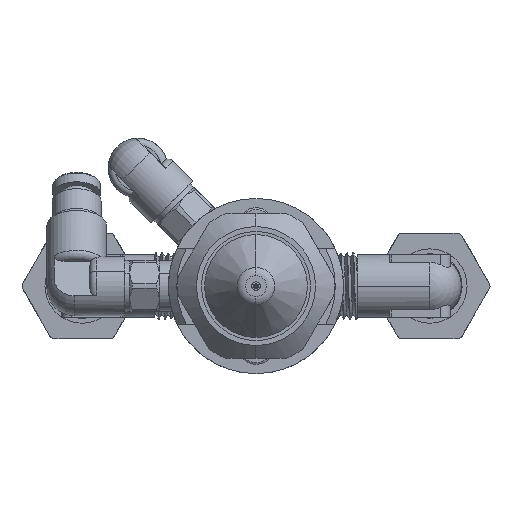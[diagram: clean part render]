
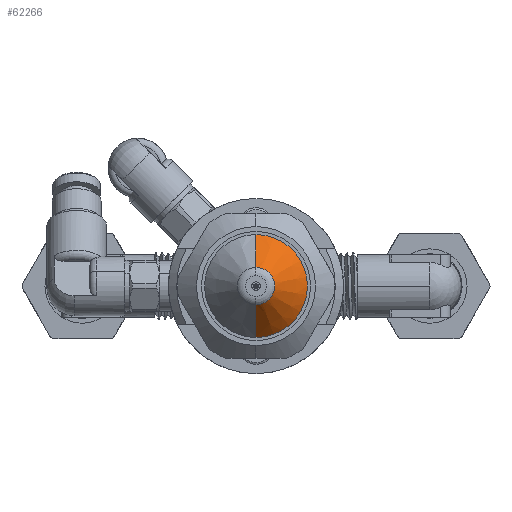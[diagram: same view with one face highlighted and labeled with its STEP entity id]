
A CAD part, front view. The second image highlights one B-rep face of the part: STEP entity #62266.
In plain terms, the highlighted conical face has half-angle 38 degrees and reference radius 7.912 mm.
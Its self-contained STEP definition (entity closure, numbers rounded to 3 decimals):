
#62178 = CYLINDRICAL_SURFACE('',#62179,7.912);
#62179 = AXIS2_PLACEMENT_3D('',#62180,#62181,#62182);
#62180 = CARTESIAN_POINT('',(0.,-51.919,
    0.));
#62181 = DIRECTION('',(0.,1.,0.));
#62182 = DIRECTION('',(0.,-0.,1.));
#62193 = EDGE_CURVE('',#62194,#62196,#62198,.T.);
#62194 = VERTEX_POINT('',#62195);
#62195 = CARTESIAN_POINT('',(0.,-10.421,7.912)
  );
#62196 = VERTEX_POINT('',#62197);
#62197 = CARTESIAN_POINT('',(0.,-10.421,-7.912)
  );
#62198 = SURFACE_CURVE('',#62199,(#62204,#62211),.PCURVE_S1.);
#62199 = CIRCLE('',#62200,7.912);
#62200 = AXIS2_PLACEMENT_3D('',#62201,#62202,#62203);
#62201 = CARTESIAN_POINT('',(0.,-10.421,
    0.));
#62202 = DIRECTION('',(0.,1.,0.));
#62203 = DIRECTION('',(0.,-0.,1.));
#62204 = PCURVE('',#62178,#62205);
#62205 = DEFINITIONAL_REPRESENTATION('',(#62206),#62210);
#62206 = LINE('',#62207,#62208);
#62207 = CARTESIAN_POINT('',(0.,41.498));
#62208 = VECTOR('',#62209,1.);
#62209 = DIRECTION('',(1.,0.));
#62210 = ( GEOMETRIC_REPRESENTATION_CONTEXT(2) 
PARAMETRIC_REPRESENTATION_CONTEXT() REPRESENTATION_CONTEXT('2D SPACE',''
  ) );
#62211 = PCURVE('',#62212,#62217);
#62212 = CONICAL_SURFACE('',#62213,7.912,0.663);
#62213 = AXIS2_PLACEMENT_3D('',#62214,#62215,#62216);
#62214 = CARTESIAN_POINT('',(0.,-10.421,
    0.));
#62215 = DIRECTION('',(0.,1.,0.));
#62216 = DIRECTION('',(0.,-0.,1.));
#62217 = DEFINITIONAL_REPRESENTATION('',(#62218),#62222);
#62218 = LINE('',#62219,#62220);
#62219 = CARTESIAN_POINT('',(0.,0.));
#62220 = VECTOR('',#62221,1.);
#62221 = DIRECTION('',(1.,0.));
#62222 = ( GEOMETRIC_REPRESENTATION_CONTEXT(2) 
PARAMETRIC_REPRESENTATION_CONTEXT() REPRESENTATION_CONTEXT('2D SPACE',''
  ) );
#62266 = ADVANCED_FACE('',(#62267),#62212,.T.);
#62267 = FACE_BOUND('',#62268,.T.);
#62268 = EDGE_LOOP('',(#62269,#62300,#62326,#62327));
#62269 = ORIENTED_EDGE('',*,*,#62270,.T.);
#62270 = EDGE_CURVE('',#62271,#62273,#62275,.T.);
#62271 = VERTEX_POINT('',#62272);
#62272 = CARTESIAN_POINT('',(0.,-16.89,
    2.858));
#62273 = VERTEX_POINT('',#62274);
#62274 = CARTESIAN_POINT('',(0.,-16.89,
    -2.858));
#62275 = SURFACE_CURVE('',#62276,(#62281,#62288),.PCURVE_S1.);
#62276 = CIRCLE('',#62277,2.858);
#62277 = AXIS2_PLACEMENT_3D('',#62278,#62279,#62280);
#62278 = CARTESIAN_POINT('',(0.,-16.89,
    0.));
#62279 = DIRECTION('',(0.,1.,0.));
#62280 = DIRECTION('',(0.,-0.,1.));
#62281 = PCURVE('',#62212,#62282);
#62282 = DEFINITIONAL_REPRESENTATION('',(#62283),#62287);
#62283 = LINE('',#62284,#62285);
#62284 = CARTESIAN_POINT('',(0.,-6.469));
#62285 = VECTOR('',#62286,1.);
#62286 = DIRECTION('',(1.,0.));
#62287 = ( GEOMETRIC_REPRESENTATION_CONTEXT(2) 
PARAMETRIC_REPRESENTATION_CONTEXT() REPRESENTATION_CONTEXT('2D SPACE',''
  ) );
#62288 = PCURVE('',#62289,#62294);
#62289 = TOROIDAL_SURFACE('',#62290,1.607,1.588);
#62290 = AXIS2_PLACEMENT_3D('',#62291,#62292,#62293);
#62291 = CARTESIAN_POINT('',(0.,-15.913,
    0.));
#62292 = DIRECTION('',(0.,1.,0.));
#62293 = DIRECTION('',(0.,-0.,1.));
#62294 = DEFINITIONAL_REPRESENTATION('',(#62295),#62299);
#62295 = LINE('',#62296,#62297);
#62296 = CARTESIAN_POINT('',(0.,5.62));
#62297 = VECTOR('',#62298,1.);
#62298 = DIRECTION('',(1.,0.));
#62299 = ( GEOMETRIC_REPRESENTATION_CONTEXT(2) 
PARAMETRIC_REPRESENTATION_CONTEXT() REPRESENTATION_CONTEXT('2D SPACE',''
  ) );
#62300 = ORIENTED_EDGE('',*,*,#62301,.T.);
#62301 = EDGE_CURVE('',#62273,#62196,#62302,.T.);
#62302 = SURFACE_CURVE('',#62303,(#62307,#62314),.PCURVE_S1.);
#62303 = LINE('',#62304,#62305);
#62304 = CARTESIAN_POINT('',(0.,-10.421,-7.912)
  );
#62305 = VECTOR('',#62306,1.);
#62306 = DIRECTION('',(0.,0.788,-0.616
    ));
#62307 = PCURVE('',#62212,#62308);
#62308 = DEFINITIONAL_REPRESENTATION('',(#62309),#62313);
#62309 = LINE('',#62310,#62311);
#62310 = CARTESIAN_POINT('',(3.142,0.));
#62311 = VECTOR('',#62312,1.);
#62312 = DIRECTION('',(0.,1.));
#62313 = ( GEOMETRIC_REPRESENTATION_CONTEXT(2) 
PARAMETRIC_REPRESENTATION_CONTEXT() REPRESENTATION_CONTEXT('2D SPACE',''
  ) );
#62314 = PCURVE('',#62315,#62320);
#62315 = CONICAL_SURFACE('',#62316,7.912,0.663);
#62316 = AXIS2_PLACEMENT_3D('',#62317,#62318,#62319);
#62317 = CARTESIAN_POINT('',(0.,-10.421,
    0.));
#62318 = DIRECTION('',(0.,1.,0.));
#62319 = DIRECTION('',(0.,-0.,1.));
#62320 = DEFINITIONAL_REPRESENTATION('',(#62321),#62325);
#62321 = LINE('',#62322,#62323);
#62322 = CARTESIAN_POINT('',(3.142,0.));
#62323 = VECTOR('',#62324,1.);
#62324 = DIRECTION('',(0.,1.));
#62325 = ( GEOMETRIC_REPRESENTATION_CONTEXT(2) 
PARAMETRIC_REPRESENTATION_CONTEXT() REPRESENTATION_CONTEXT('2D SPACE',''
  ) );
#62326 = ORIENTED_EDGE('',*,*,#62193,.F.);
#62327 = ORIENTED_EDGE('',*,*,#62328,.F.);
#62328 = EDGE_CURVE('',#62271,#62194,#62329,.T.);
#62329 = SURFACE_CURVE('',#62330,(#62334,#62341),.PCURVE_S1.);
#62330 = LINE('',#62331,#62332);
#62331 = CARTESIAN_POINT('',(0.,-10.421,7.912)
  );
#62332 = VECTOR('',#62333,1.);
#62333 = DIRECTION('',(0.,0.788,0.616));
#62334 = PCURVE('',#62212,#62335);
#62335 = DEFINITIONAL_REPRESENTATION('',(#62336),#62340);
#62336 = LINE('',#62337,#62338);
#62337 = CARTESIAN_POINT('',(0.,0.));
#62338 = VECTOR('',#62339,1.);
#62339 = DIRECTION('',(0.,1.));
#62340 = ( GEOMETRIC_REPRESENTATION_CONTEXT(2) 
PARAMETRIC_REPRESENTATION_CONTEXT() REPRESENTATION_CONTEXT('2D SPACE',''
  ) );
#62341 = PCURVE('',#62315,#62342);
#62342 = DEFINITIONAL_REPRESENTATION('',(#62343),#62347);
#62343 = LINE('',#62344,#62345);
#62344 = CARTESIAN_POINT('',(6.283,0.));
#62345 = VECTOR('',#62346,1.);
#62346 = DIRECTION('',(0.,1.));
#62347 = ( GEOMETRIC_REPRESENTATION_CONTEXT(2) 
PARAMETRIC_REPRESENTATION_CONTEXT() REPRESENTATION_CONTEXT('2D SPACE',''
  ) );
